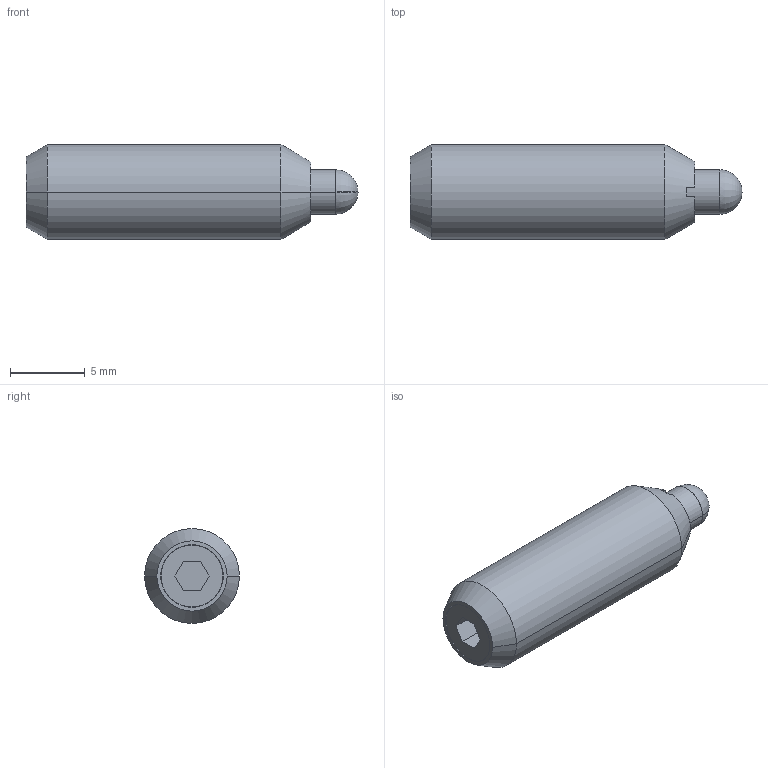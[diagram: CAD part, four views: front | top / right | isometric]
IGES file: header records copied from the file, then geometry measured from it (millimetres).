
Start section:  PTC IGES file: s54b-3d.igs
Global section: file name: s54b-3d.igs; native system: Pro/ENGINEER by Parametric Technology Corporation; preprocessor: 2002350; author: chant; organization: Unknown; date: 061031.135801; units: inch
Bounding box: 22.23 x 6.35 x 6.35 mm (x, y, z)
Surface area: 480.5 mm2 (no closed solid volume)
Topology: 0 solids, 0 shells, 32 faces, 222 edges, 280 vertices
Faces by surface type: bspline 16, revolution 16
